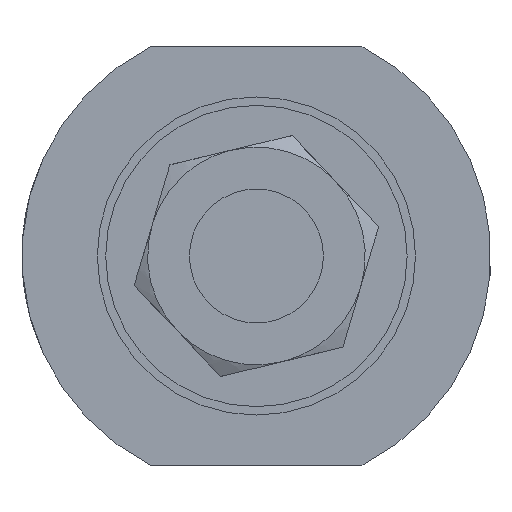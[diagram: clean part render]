
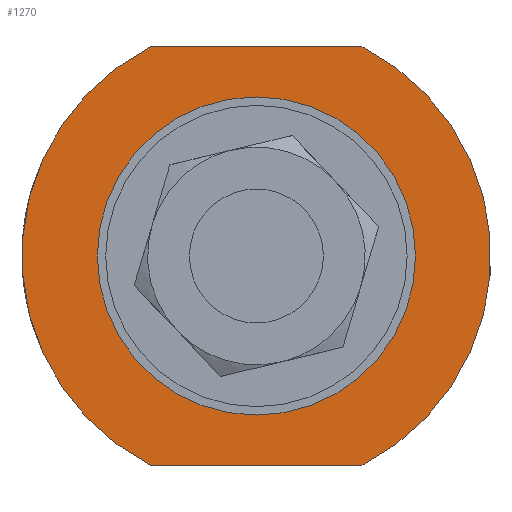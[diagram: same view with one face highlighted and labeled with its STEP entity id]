
A CAD part, left-side view. The second image highlights one B-rep face of the part: STEP entity #1270.
In plain terms, the highlighted planar face has unit normal (-1, 0, 0).
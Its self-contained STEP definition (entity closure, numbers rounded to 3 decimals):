
#28 = EDGE_CURVE ( 'NONE', #1307, #1223, #2202, .T. ) ;
#153 = ORIENTED_EDGE ( 'NONE', *, *, #1254, .F. ) ;
#161 = VECTOR ( 'NONE', #1854, 1000. ) ;
#188 = CARTESIAN_POINT ( 'NONE',  ( 34., 11.874, -12.5 ) ) ;
#218 = CIRCLE ( 'NONE', #1743, 9.5 ) ;
#293 = CIRCLE ( 'NONE', #1054, 14. ) ;
#313 = CARTESIAN_POINT ( 'NONE',  ( 34., 6.305, 12.5 ) ) ;
#354 = LINE ( 'NONE', #188, #161 ) ;
#380 = EDGE_CURVE ( 'NONE', #1307, #1673, #926, .T. ) ;
#397 = CARTESIAN_POINT ( 'NONE',  ( 34., 0., 9.5 ) ) ;
#415 = CIRCLE ( 'NONE', #2488, 9.5 ) ;
#505 = DIRECTION ( 'NONE',  ( 0., -1., 0. ) ) ;
#508 = ORIENTED_EDGE ( 'NONE', *, *, #380, .T. ) ;
#571 = CARTESIAN_POINT ( 'NONE',  ( 34., 6.305, -12.5 ) ) ;
#596 = ORIENTED_EDGE ( 'NONE', *, *, #28, .F. ) ;
#676 = DIRECTION ( 'NONE',  ( 0., 0., -1. ) ) ;
#723 = ORIENTED_EDGE ( 'NONE', *, *, #1652, .T. ) ;
#729 = CARTESIAN_POINT ( 'NONE',  ( 34., 0., -14. ) ) ;
#829 = CARTESIAN_POINT ( 'NONE',  ( 34., 0., -9.5 ) ) ;
#852 = DIRECTION ( 'NONE',  ( 0., 0., 1. ) ) ;
#856 = VECTOR ( 'NONE', #505, 1000. ) ;
#872 = EDGE_CURVE ( 'NONE', #1322, #1741, #415, .T. ) ;
#926 = CIRCLE ( 'NONE', #1794, 14. ) ;
#1054 = AXIS2_PLACEMENT_3D ( 'NONE', #1155, #1332, #1686 ) ;
#1110 = FACE_BOUND ( 'NONE', #1350, .T. ) ;
#1146 = EDGE_LOOP ( 'NONE', ( #508, #153, #723, #596 ) ) ;
#1149 = DIRECTION ( 'NONE',  ( 0., 0., 1. ) ) ;
#1155 = CARTESIAN_POINT ( 'NONE',  ( 34., 0., 0. ) ) ;
#1223 = VERTEX_POINT ( 'NONE', #2320 ) ;
#1236 = FACE_OUTER_BOUND ( 'NONE', #1146, .T. ) ;
#1237 = VERTEX_POINT ( 'NONE', #2109 ) ;
#1242 = DIRECTION ( 'NONE',  ( -1., 0., 0. ) ) ;
#1254 = EDGE_CURVE ( 'NONE', #1237, #1673, #354, .T. ) ;
#1270 = ADVANCED_FACE ( 'NONE', ( #1110, #1236 ), #1558, .F. ) ;
#1307 = VERTEX_POINT ( 'NONE', #313 ) ;
#1322 = VERTEX_POINT ( 'NONE', #397 ) ;
#1332 = DIRECTION ( 'NONE',  ( -1., 0., 0. ) ) ;
#1350 = EDGE_LOOP ( 'NONE', ( #1591, #1594 ) ) ;
#1453 = DIRECTION ( 'NONE',  ( 0., 0., 1. ) ) ;
#1522 = EDGE_CURVE ( 'NONE', #1741, #1322, #218, .T. ) ;
#1558 = PLANE ( 'NONE',  #2163 ) ;
#1590 = CARTESIAN_POINT ( 'NONE',  ( 34., 11.874, 12.5 ) ) ;
#1591 = ORIENTED_EDGE ( 'NONE', *, *, #872, .F. ) ;
#1594 = ORIENTED_EDGE ( 'NONE', *, *, #1522, .F. ) ;
#1652 = EDGE_CURVE ( 'NONE', #1237, #1223, #293, .T. ) ;
#1673 = VERTEX_POINT ( 'NONE', #571 ) ;
#1686 = DIRECTION ( 'NONE',  ( 0., 0., 1. ) ) ;
#1741 = VERTEX_POINT ( 'NONE', #829 ) ;
#1743 = AXIS2_PLACEMENT_3D ( 'NONE', #2315, #1953, #1453 ) ;
#1794 = AXIS2_PLACEMENT_3D ( 'NONE', #2442, #1242, #1149 ) ;
#1854 = DIRECTION ( 'NONE',  ( 0., 1., 0. ) ) ;
#1896 = DIRECTION ( 'NONE',  ( 1., 0., 0. ) ) ;
#1953 = DIRECTION ( 'NONE',  ( -1., 0., 0. ) ) ;
#1956 = CARTESIAN_POINT ( 'NONE',  ( 34., 0., 0. ) ) ;
#2109 = CARTESIAN_POINT ( 'NONE',  ( 34., -6.305, -12.5 ) ) ;
#2142 = DIRECTION ( 'NONE',  ( -1., 0., 0. ) ) ;
#2163 = AXIS2_PLACEMENT_3D ( 'NONE', #729, #1896, #676 ) ;
#2202 = LINE ( 'NONE', #1590, #856 ) ;
#2315 = CARTESIAN_POINT ( 'NONE',  ( 34., 0., 0. ) ) ;
#2320 = CARTESIAN_POINT ( 'NONE',  ( 34., -6.305, 12.5 ) ) ;
#2442 = CARTESIAN_POINT ( 'NONE',  ( 34., 0., 0. ) ) ;
#2488 = AXIS2_PLACEMENT_3D ( 'NONE', #1956, #2142, #852 ) ;
